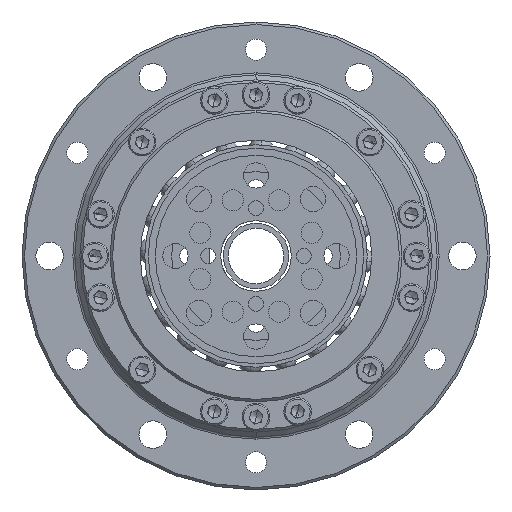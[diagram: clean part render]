
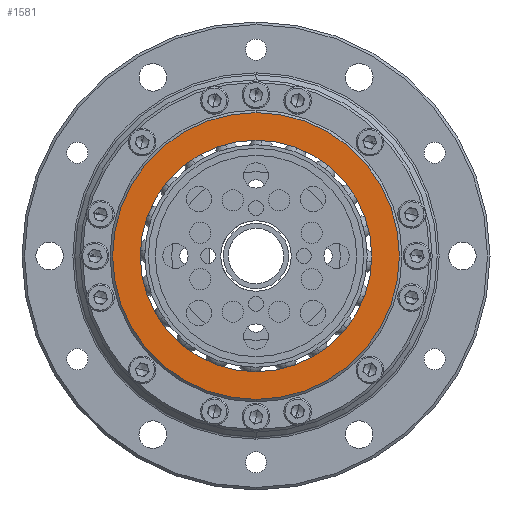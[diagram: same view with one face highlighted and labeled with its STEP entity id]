
A CAD part, left-side view. The second image highlights one B-rep face of the part: STEP entity #1581.
In plain terms, the highlighted planar face has unit normal (-1, 0, 0).
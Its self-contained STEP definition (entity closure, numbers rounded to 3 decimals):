
#778 = EDGE_CURVE ( 'NONE', #9835, #15877, #5805, .T. ) ;
#1576 = AXIS2_PLACEMENT_3D ( 'NONE', #12931, #2000, #14732 ) ;
#1581 = ADVANCED_FACE ( 'NONE', ( #6059, #15142 ), #10278, .T. ) ;
#1660 = CARTESIAN_POINT ( 'NONE',  ( -35.653, -9.167, 116. ) ) ;
#1734 = DIRECTION ( 'NONE',  ( -1., 0., 0. ) ) ;
#2000 = DIRECTION ( 'NONE',  ( -1., 0., 0. ) ) ;
#2197 = CARTESIAN_POINT ( 'NONE',  ( -35.653, -9.167, 93. ) ) ;
#2764 = CIRCLE ( 'NONE', #15681, 23. ) ;
#3696 = EDGE_LOOP ( 'NONE', ( #20462, #12820 ) ) ;
#4063 = DIRECTION ( 'NONE',  ( 0., 0., -1. ) ) ;
#5805 = CIRCLE ( 'NONE', #10904, 23. ) ;
#6059 = FACE_OUTER_BOUND ( 'NONE', #3696, .T. ) ;
#6237 = VERTEX_POINT ( 'NONE', #15128 ) ;
#6861 = EDGE_CURVE ( 'NONE', #15877, #9835, #2764, .T. ) ;
#7898 = CARTESIAN_POINT ( 'NONE',  ( -35.653, -9.167, 121.5 ) ) ;
#7994 = EDGE_LOOP ( 'NONE', ( #19013, #17899 ) ) ;
#9554 = AXIS2_PLACEMENT_3D ( 'NONE', #19040, #10353, #10439 ) ;
#9835 = VERTEX_POINT ( 'NONE', #1660 ) ;
#10278 = PLANE ( 'NONE',  #9554 ) ;
#10353 = DIRECTION ( 'NONE',  ( -1., 0., 0. ) ) ;
#10439 = DIRECTION ( 'NONE',  ( 0., 0., -1. ) ) ;
#10904 = AXIS2_PLACEMENT_3D ( 'NONE', #15996, #16082, #15919 ) ;
#12337 = CARTESIAN_POINT ( 'NONE',  ( -35.653, -9.167, 70. ) ) ;
#12358 = VERTEX_POINT ( 'NONE', #7898 ) ;
#12671 = CARTESIAN_POINT ( 'NONE',  ( -35.653, -9.167, 93. ) ) ;
#12820 = ORIENTED_EDGE ( 'NONE', *, *, #23467, .T. ) ;
#12931 = CARTESIAN_POINT ( 'NONE',  ( -35.653, -9.167, 93. ) ) ;
#14467 = DIRECTION ( 'NONE',  ( 0., 0., -1. ) ) ;
#14732 = DIRECTION ( 'NONE',  ( 0., 0., -1. ) ) ;
#14920 = DIRECTION ( 'NONE',  ( -1., 0., 0. ) ) ;
#15128 = CARTESIAN_POINT ( 'NONE',  ( -35.653, -9.167, 64.5 ) ) ;
#15142 = FACE_BOUND ( 'NONE', #7994, .T. ) ;
#15681 = AXIS2_PLACEMENT_3D ( 'NONE', #12671, #1734, #14467 ) ;
#15877 = VERTEX_POINT ( 'NONE', #12337 ) ;
#15919 = DIRECTION ( 'NONE',  ( 0., 0., -1. ) ) ;
#15996 = CARTESIAN_POINT ( 'NONE',  ( -35.653, -9.167, 93. ) ) ;
#16082 = DIRECTION ( 'NONE',  ( -1., 0., 0. ) ) ;
#17790 = CIRCLE ( 'NONE', #23377, 28.5 ) ;
#17899 = ORIENTED_EDGE ( 'NONE', *, *, #778, .F. ) ;
#19013 = ORIENTED_EDGE ( 'NONE', *, *, #6861, .F. ) ;
#19040 = CARTESIAN_POINT ( 'NONE',  ( -35.653, -9.167, 93. ) ) ;
#20462 = ORIENTED_EDGE ( 'NONE', *, *, #22388, .T. ) ;
#20684 = CIRCLE ( 'NONE', #1576, 28.5 ) ;
#22388 = EDGE_CURVE ( 'NONE', #12358, #6237, #20684, .T. ) ;
#23377 = AXIS2_PLACEMENT_3D ( 'NONE', #2197, #14920, #4063 ) ;
#23467 = EDGE_CURVE ( 'NONE', #6237, #12358, #17790, .T. ) ;
